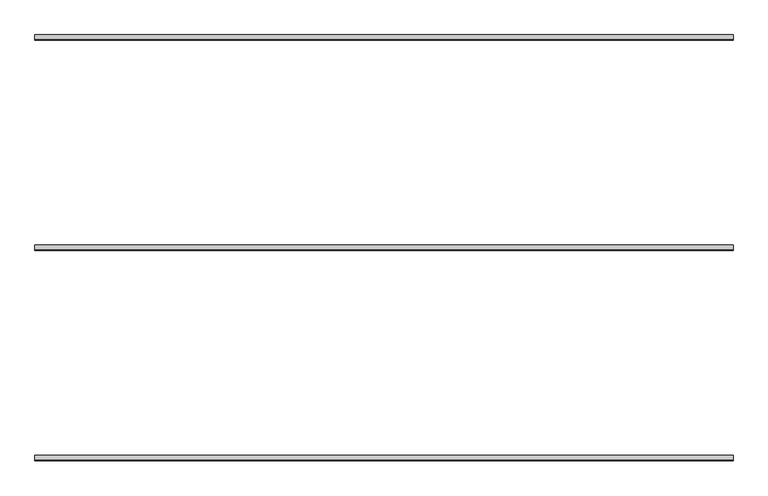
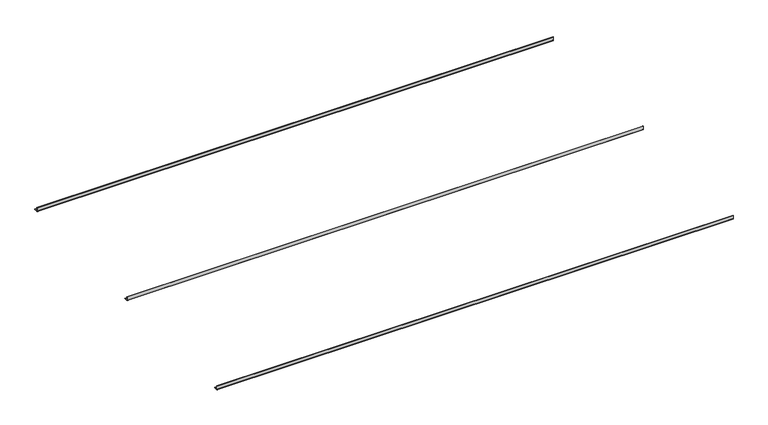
"""IFC4 building model written with IfcOpenShell, lengths in millimetres: proxy geometry, durlum_S7_DOMUS_ALT : durlum_S7_DOMUS_ALT."""

import ifcopenshell
import ifcopenshell.guid

model = None  # the IFC model being written
_history = None  # IfcOwnerHistory: only IFC2X3 demands one
_inside = {}  # id of a spatial element -> (the spatial element, [elements in it])
_under = {}  # id of a project, library or spatial element -> (it, [spatial elements below it])
_declared = {}  # id of a project -> (the project, [libraries it declares])
_typed = {}  # id of a type object -> (the type object, [elements of that type])
_made_of = {}  # id of a material, layer set ... -> (it, [elements and type objects made of it])


def new_model(schema):
    """Start an empty IFC model of exactly this schema.

    Asked for "IFC4X3", IfcOpenShell would pick the latest addendum, in which some entities
    have other attributes; the version numbers below select the first issue.
    IFC2X3 requires an IfcOwnerHistory on every rooted entity: one is made here for all.
    """
    global model, _history
    if schema == "IFC4X3":
        model = ifcopenshell.file(schema_version=(4, 3, 0, 0))
    else:
        model = ifcopenshell.file(schema=schema)
    _inside.clear()
    _under.clear()
    _declared.clear()
    _typed.clear()
    _made_of.clear()
    _history = None
    if model.schema == "IFC2X3":
        org = make("IfcOrganization", Name="unknown")
        user = make(
            "IfcPersonAndOrganization",
            ThePerson=make("IfcPerson", FamilyName="unknown"),
            TheOrganization=org,
        )
        app = make(
            "IfcApplication",
            ApplicationDeveloper=org,
            Version="unknown",
            ApplicationFullName="unknown",
            ApplicationIdentifier="unknown",
        )
        _history = make(
            "IfcOwnerHistory",
            OwningUser=user,
            OwningApplication=app,
            ChangeAction="ADDED",
            CreationDate=0,
        )
    return model


def make(cls, **values):
    """One entity of the class cls with the attributes given. An attribute that is None is left unset."""
    return model.create_entity(
        cls, **{name: value for name, value in values.items() if value is not None}
    )


def rooted(cls, **values):
    """An entity with a GlobalId (a new one), such as an element, a storey or a relation."""
    return make(cls, GlobalId=ifcopenshell.guid.new(), OwnerHistory=_history, **values)


def si_unit(unit_type, name, prefix=None):
    """IfcSIUnit, for example si_unit("LENGTHUNIT", "METRE", prefix="MILLI")."""
    return make("IfcSIUnit", UnitType=unit_type, Prefix=prefix, Name=name)


def assignment(units):
    """IfcUnitAssignment: the units of a project."""
    return None if units is None else make("IfcUnitAssignment", Units=units)


def point(xyz):
    """IfcCartesianPoint."""
    return None if xyz is None else make("IfcCartesianPoint", Coordinates=xyz)


def direction(xyz):
    """IfcDirection."""
    return None if xyz is None else make("IfcDirection", DirectionRatios=xyz)


def frame(location, z_axis=None, x_axis=None):
    """IfcAxis2Placement3D, a coordinate frame: its origin and axes. An axis left out is left unset."""
    return make(
        "IfcAxis2Placement3D",
        Location=point(location),
        Axis=direction(z_axis),
        RefDirection=direction(x_axis),
    )


def frame_2d(location, x_axis=None):
    """IfcAxis2Placement2D, a coordinate frame in the plane: its origin and x axis."""
    return make(
        "IfcAxis2Placement2D", Location=point(location), RefDirection=direction(x_axis)
    )


def origin():
    """The frame at (0, 0, 0) with its axes left unset."""
    return frame((0.0, 0.0, 0.0))


def place(relative_to, where):
    """IfcLocalPlacement: puts the frame where relative to a parent placement (None: the world)."""
    return make(
        "IfcLocalPlacement", PlacementRelTo=relative_to, RelativePlacement=where
    )


def context(
    kind, dimensions, precision=None, world=None, true_north=None, identifier=None
):
    """IfcGeometricRepresentationContext, for example the 3D "Model" context."""
    return make(
        "IfcGeometricRepresentationContext",
        ContextIdentifier=identifier,
        ContextType=kind,
        CoordinateSpaceDimension=dimensions,
        Precision=precision,
        WorldCoordinateSystem=world,
        TrueNorth=true_north,
    )


def project(units=None, contexts=None):
    """IfcProject with its units and contexts."""
    return rooted(
        "IfcProject",
        Name="project",
        RepresentationContexts=contexts,
        UnitsInContext=assignment(units),
    )


def spatial(cls, under=None, at=None, **own):
    """A site, building, storey or space (cls), placed at a placement, below another one or the project."""
    s = rooted(cls, ObjectPlacement=at, **own)
    if under is not None:
        _under.setdefault(under.id(), (under, []))[1].append(s)
    return s


def polyline(points):
    """IfcPolyline through the points."""
    return make("IfcPolyline", Points=[point(p) for p in points])


def circle_curve(where, radius):
    """IfcCircle in the frame where."""
    return make("IfcCircle", Position=where, Radius=radius)


def trimmed(basis, trim1, trim2, sense, master):
    """IfcTrimmedCurve: the piece of a basis curve between two trims."""
    return make(
        "IfcTrimmedCurve",
        BasisCurve=basis,
        Trim1=trim1,
        Trim2=trim2,
        SenseAgreement=sense,
        MasterRepresentation=master,
    )


def segment(curve, same_sense, transition):
    """IfcCompositeCurveSegment."""
    return make(
        "IfcCompositeCurveSegment",
        Transition=transition,
        SameSense=same_sense,
        ParentCurve=curve,
    )


def composite_curve(segments, self_intersect=None):
    """IfcCompositeCurve: segments joined end to end."""
    return make("IfcCompositeCurve", Segments=segments, SelfIntersect=self_intersect)


def outline(outer, holes=None, kind="AREA"):
    """IfcArbitraryClosedProfileDef: a profile drawn as a closed curve; with holes, ...WithVoids."""
    if holes is None:
        return make("IfcArbitraryClosedProfileDef", ProfileType=kind, OuterCurve=outer)
    return make(
        "IfcArbitraryProfileDefWithVoids",
        ProfileType=kind,
        OuterCurve=outer,
        InnerCurves=holes,
    )


def extrude(swept, where, along, depth):
    """IfcExtrudedAreaSolid: the profile swept, set in the frame where, extruded along a direction by depth."""
    return make(
        "IfcExtrudedAreaSolid",
        SweptArea=swept,
        Position=where,
        ExtrudedDirection=direction(along),
        Depth=depth,
    )


def shape(context_of_items, identifier, shape_type, items):
    """IfcShapeRepresentation: the items that make up one representation, for example the "Body"."""
    return make(
        "IfcShapeRepresentation",
        ContextOfItems=context_of_items,
        RepresentationIdentifier=identifier,
        RepresentationType=shape_type,
        Items=items,
    )


def source(mapping_origin, context_of_items, identifier, shape_type, items):
    """IfcRepresentationMap: a shape defined once, which mapped items show again and again."""
    return make(
        "IfcRepresentationMap",
        MappingOrigin=mapping_origin,
        MappedRepresentation=shape(context_of_items, identifier, shape_type, items),
    )


def transform(
    local_origin,
    x_axis=None,
    y_axis=None,
    z_axis=None,
    scale=None,
    scale2=None,
    scale3=None,
    uniform=True,
):
    """IfcCartesianTransformationOperator3D, or its non-uniform kind. x_axis, y_axis, z_axis: its Axis1, 2, 3."""
    if uniform:
        return make(
            "IfcCartesianTransformationOperator3D",
            Axis1=direction(x_axis),
            Axis2=direction(y_axis),
            LocalOrigin=point(local_origin),
            Scale=scale,
            Axis3=direction(z_axis),
        )
    return make(
        "IfcCartesianTransformationOperator3DnonUniform",
        Axis1=direction(x_axis),
        Axis2=direction(y_axis),
        LocalOrigin=point(local_origin),
        Scale=scale,
        Axis3=direction(z_axis),
        Scale2=scale2,
        Scale3=scale3,
    )


def mapped(mapping_source, mapping_target):
    """IfcMappedItem: shows the shape of a source again, moved by a transform."""
    return make(
        "IfcMappedItem", MappingSource=mapping_source, MappingTarget=mapping_target
    )


def made_of(thing, what):
    """Note that an element or type object is made of a material, layer set ...; save() writes the relation."""
    if what is not None:
        _made_of.setdefault(what.id(), (what, []))[1].append(thing)
    return thing


def element(
    cls,
    number,
    at=None,
    inside=None,
    cuts=None,
    type_object=None,
    material=None,
    context=None,
    identifier="Body",
    shape_type=None,
    held_by="IfcProductDefinitionShape",
    body=None,
    shapes=None,
    **own,
):
    """One element of the class cls, such as IfcWall. Its Tag is "e" and its number.

    at: its placement. inside: the storey or other place that contains it. cuts: it is an
    opening in that element (IfcRelVoidsElement). A single representation is given by context,
    identifier, shape_type and body (its items); several are given by shapes. held_by: the class
    of the entity that holds the representations. save() writes the other relations.
    """
    e = rooted(cls, Tag="e%d" % number, ObjectPlacement=at, **own)
    if body is not None:
        shapes = [shape(context, identifier, shape_type, body)]
    if shapes is not None:
        e.Representation = make(held_by, Representations=shapes)
    if inside is not None:
        _inside.setdefault(inside.id(), (inside, []))[1].append(e)
    if cuts is not None:
        rooted(
            "IfcRelVoidsElement", RelatingBuildingElement=cuts, RelatedOpeningElement=e
        )
    if type_object is not None:
        _typed.setdefault(type_object.id(), (type_object, []))[1].append(e)
    return made_of(e, material)


def aggregate(whole, parts):
    """IfcRelAggregates: a whole, such as a stair, and the parts it consists of."""
    return rooted("IfcRelAggregates", RelatingObject=whole, RelatedObjects=parts)


def save(model, path):
    """Write the relations noted so far, then the file.

    IfcRelAggregates (storeys below a building ...), IfcRelContainedInSpatialStructure (elements
    in a storey), IfcRelDefinesByType, IfcRelAssociatesMaterial and IfcRelDeclares: one each for
    every whole, place, type object, material and project.
    """
    for whole, parts in _under.values():
        aggregate(whole, parts)
    for where, things in _inside.values():
        rooted(
            "IfcRelContainedInSpatialStructure",
            RelatedElements=things,
            RelatingStructure=where,
        )
    for kind, things in _typed.values():
        rooted("IfcRelDefinesByType", RelatedObjects=things, RelatingType=kind)
    for what, things in _made_of.values():
        rooted("IfcRelAssociatesMaterial", RelatedObjects=things, RelatingMaterial=what)
    for by, libraries in _declared.values():
        rooted("IfcRelDeclares", RelatingContext=by, RelatedDefinitions=libraries)
    model.write(path)


def generic_models_0db597f7(model_context):
    return source(origin(), model_context, "Body", "SweptSolid", [
        extrude(outline(composite_curve([segment(polyline([(2.0, 3792.9), (2.0, 3767.0)]), True, "CONTINUOUS"), segment(trimmed(circle_curve(frame_2d((4.0, 3767.0)), 2.0), [point((2.0, 3767.0))], [point((4.0, 3765.0))], True, "CARTESIAN"), True, "CONTINUOUS"), segment(polyline([(4.0, 3765.0), (29.9, 3765.0), (29.9, 3763.0), (4.0, 3763.0)]), True, "CONTINUOUS"), segment(trimmed(circle_curve(frame_2d((4.0, 3767.0)), 4.0), [point((4.0, 3763.0))], [point((0.0, 3767.0))], False, "CARTESIAN"), True, "CONTINUOUS"), segment(polyline([(0.0, 3767.0), (0.0, 3792.9), (2.0, 3792.9)]), True, "CONTINUOUS")], self_intersect=False)), frame((-1990.0, 0.0, 0.0), z_axis=(1.0, 0.0, 0.0), x_axis=(0.0, 1.0, 0.0)), (0.0, 0.0, 1.0), 3980.0),
        extrude(outline(composite_curve([segment(polyline([(1202.0, 3792.9), (1202.0, 3767.0)]), True, "CONTINUOUS"), segment(trimmed(circle_curve(frame_2d((1204.0, 3767.0)), 2.0), [point((1202.0, 3767.0))], [point((1204.0, 3765.0))], True, "CARTESIAN"), True, "CONTINUOUS"), segment(polyline([(1204.0, 3765.0), (1229.9, 3765.0), (1229.9, 3763.0), (1204.0, 3763.0)]), True, "CONTINUOUS"), segment(trimmed(circle_curve(frame_2d((1204.0, 3767.0)), 4.0), [point((1204.0, 3763.0))], [point((1200.0, 3767.0))], False, "CARTESIAN"), True, "CONTINUOUS"), segment(polyline([(1200.0, 3767.0), (1200.0, 3792.9), (1202.0, 3792.9)]), True, "CONTINUOUS")], self_intersect=False)), frame((-1990.0, 0.0, 0.0), z_axis=(1.0, 0.0, 0.0), x_axis=(0.0, 1.0, 0.0)), (0.0, 0.0, 1.0), 3980.0),
        extrude(outline(composite_curve([segment(polyline([(-1198.0, 3792.9), (-1198.0, 3767.0)]), True, "CONTINUOUS"), segment(trimmed(circle_curve(frame_2d((-1196.0, 3767.0)), 2.0), [point((-1198.0, 3767.0))], [point((-1196.0, 3765.0))], True, "CARTESIAN"), True, "CONTINUOUS"), segment(polyline([(-1196.0, 3765.0), (-1170.1, 3765.0), (-1170.1, 3763.0), (-1196.0, 3763.0)]), True, "CONTINUOUS"), segment(trimmed(circle_curve(frame_2d((-1196.0, 3767.0)), 4.0), [point((-1196.0, 3763.0))], [point((-1200.0, 3767.0))], False, "CARTESIAN"), True, "CONTINUOUS"), segment(polyline([(-1200.0, 3767.0), (-1200.0, 3792.9), (-1198.0, 3792.9)]), True, "CONTINUOUS")], self_intersect=False)), frame((-1990.0, 0.0, 0.0), z_axis=(1.0, 0.0, 0.0), x_axis=(0.0, 1.0, 0.0)), (0.0, 0.0, 1.0), 3980.0),
    ])


if __name__ == "__main__":
    model = new_model("IFC4")
    model_context = context("Model", 3, world=origin())
    ifc_project = project(units=[si_unit("LENGTHUNIT", "METRE", prefix="MILLI")], contexts=[model_context])
    site = spatial("IfcSite", under=ifc_project)
    building = spatial("IfcBuilding", under=site)
    placement = place(None, origin())
    generic_models_shape = generic_models_0db597f7(model_context)
    element("IfcBuildingElementProxy", 1, Name="durlum_S7_DOMUS_ALT : durlum_S7_DOMUS_ALT", ObjectType="durlum_S7_DOMUS_ALT : durlum_S7_DOMUS_ALT", at=placement, inside=building, context=model_context, shape_type="MappedRepresentation", body=[
        mapped(generic_models_shape, transform((0.0, 0.0, 0.0), x_axis=(1.0, 0.0, 0.0), y_axis=(0.0, 1.0, 0.0), z_axis=(0.0, 0.0, 1.0))),
    ])
    save(model, "model.ifc")
